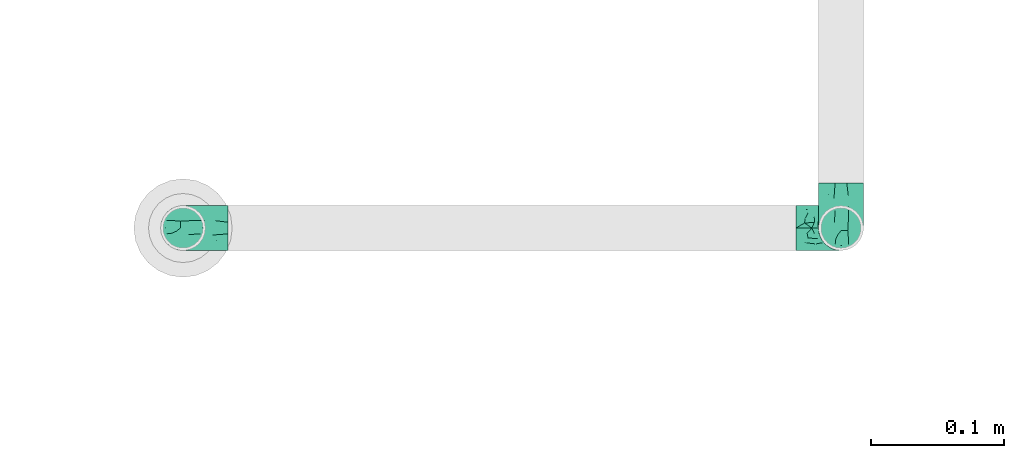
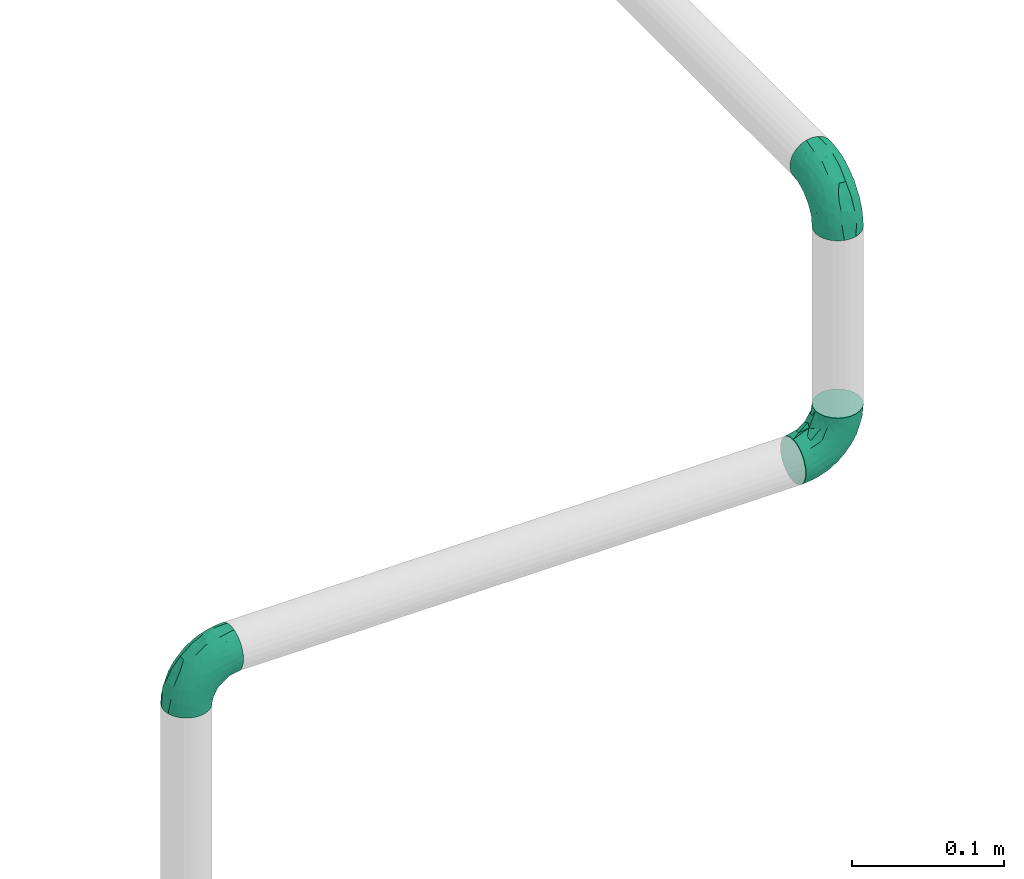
# One storey, part 74 of 95: 3 flow fittings.
"""IFC2X3 building model written with IfcOpenShell, lengths in millimetres."""

from ifc_helpers import new_model, entity, si_unit, converted_unit, derived_unit, direction, frame, origin_with_axes, place, context, subcontext, project, spatial, open_shell, surface_model, source, transform, mapped, type_object, element, save


model = new_model("IFC2X3")

# Units and contexts
model_context = context("Model", 3, precision=0.01, world=frame((0.0, 4.29681676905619e-09, 0.0)), true_north=direction((4.01073788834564e-13, 1.0)))
plan_context = context("Plan", 3, precision=0.01, world=frame((0.0, 4.29681676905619e-09, 0.0)), true_north=direction((4.01073788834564e-13, 1.0)))
body_context = subcontext(model_context, "Body", "Model", "MODEL_VIEW")
ifc_project = project(units=[converted_unit("PLANEANGLEUNIT", "DEGREE", entity("IfcPositiveLengthMeasure", 0.0174532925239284), si_unit("PLANEANGLEUNIT", "RADIAN"), dimensions=[0, 0, 0, 0, 0, 0, 0]), si_unit("AREAUNIT", "SQUARE_METRE"), si_unit("LENGTHUNIT", "METRE", prefix="MILLI"), si_unit("MASSUNIT", "GRAM", prefix="KILO"), si_unit("POWERUNIT", "WATT"), si_unit("PRESSUREUNIT", "PASCAL"), si_unit("FORCEUNIT", "NEWTON", prefix="KILO"), si_unit("ELECTRICVOLTAGEUNIT", "VOLT"), si_unit("ELECTRICCURRENTUNIT", "AMPERE"), si_unit("THERMODYNAMICTEMPERATUREUNIT", "DEGREE_CELSIUS"), si_unit("TIMEUNIT", "SECOND"), si_unit("VOLUMEUNIT", "CUBIC_METRE"), derived_unit("LINEARVELOCITYUNIT", [(si_unit("LENGTHUNIT", "METRE"), 1), (si_unit("TIMEUNIT", "SECOND"), -1)]), derived_unit("VOLUMETRICFLOWRATEUNIT", [(si_unit("VOLUMEUNIT", "CUBIC_METRE"), 1), (si_unit("TIMEUNIT", "SECOND"), -1)]), derived_unit("THERMALTRANSMITTANCEUNIT", [(si_unit("POWERUNIT", "WATT"), 1), (si_unit("THERMODYNAMICTEMPERATUREUNIT", "KELVIN"), -1), (si_unit("AREAUNIT", "SQUARE_METRE"), -1)]), derived_unit("SOUNDPRESSUREUNIT", [(si_unit("PRESSUREUNIT", "PASCAL"), 1)])], contexts=[model_context, plan_context])

# Site, building, storey
site_placement = place(None, frame((0.0, -4.29681676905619e-09, 0.0), z_axis=(0.0, 0.0, 1.0), x_axis=(1.0, 0.0, 0.0)))
site = spatial("IfcSite", under=ifc_project, at=site_placement, CompositionType="ELEMENT")
building_placement = place(site_placement, frame((0.0, 4.29681676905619e-09, 0.0), z_axis=(0.0, 0.0, 1.0), x_axis=(1.0, 0.0, 0.0)))
building = spatial("IfcBuilding", under=site, at=building_placement, Name="mc-building", CompositionType="ELEMENT")
storey_placement = place(building_placement, frame((0.0, 0.0, 210900.0), z_axis=(0.0, 0.0, 1.0), x_axis=(1.0, 0.0, 0.0)))
storey = spatial("IfcBuildingStorey", under=building, at=storey_placement, Name="Nivå F", CompositionType="ELEMENT", Elevation=210900.0)

# Flow fittings
pipe_fitting_type = type_object("IfcPipeFittingType", Name="magi_pipe_fe_elbow_short_001", PredefinedType="BEND")
shared_shape_1 = source(origin_with_axes(), body_context, "Body", "SurfaceModel", [
    surface_model("IfcShellBasedSurfaceModel", [(-33.8, 8.45, -14.63583), (-33.8, 4.37404, -16.32415), (-33.8, 11.9501, -11.9501), (-33.8, -11.9501, -11.9501), (-33.8, -14.63583, -8.45), (-33.8, -8.45, -14.63583), (-33.8, 0.0, -16.9), (-33.8, -4.37404, -16.32415), (-33.8, -4.37404, 16.32415), (-33.8, 0.0, 16.9), (-33.8, -8.45, 14.63583), (-33.8, 16.32415, -4.37404), (-33.8, 14.63583, -8.45), (-33.8, -16.32415, -4.37404), (-33.8, -16.9, 0.0), (-33.8, -16.32415, 4.37404), (-33.8, 11.9501, 11.9501), (-33.8, 14.63583, 8.45), (-33.8, 16.32415, 4.37404), (-33.8, 4.37404, 16.32415), (-33.8, 8.45, 14.63583), (-33.8, -14.63583, 8.45), (-33.8, -11.9501, 11.9501), (-33.8, 16.9, 0.0), (-11.9501, 33.8, -11.9501), (0.0, 33.8, -16.9), (-4.37404, 33.8, -16.32415), (-8.45, 33.8, -14.63583), (-14.63583, 33.8, -8.45), (-16.32415, 33.8, -4.37404), (14.63583, 33.8, -8.45), (8.45, 33.8, 14.63583), (16.32415, 33.8, -4.37404), (8.45, 33.8, -14.63583), (11.9501, 33.8, -11.9501), (4.37404, 33.8, -16.32415), (16.32415, 33.8, 4.37404), (16.9, 33.8, 0.0), (-11.9501, 33.8, 11.9501), (-16.32415, 33.8, 4.37404), (-14.63583, 33.8, 8.45), (-8.45, 33.8, 14.63583), (-4.37404, 33.8, 16.32415), (11.9501, 33.8, 11.9501), (14.63583, 33.8, 8.45), (0.0, 33.8, 16.9), (4.37404, 33.8, 16.32415), (-16.9, 33.8, 0.0), (-24.79389, -13.12945, 9.48721), (-22.19287, -9.75018, 12.59315), (-24.09897, -14.97035, 0.0), (-14.93934, -10.76256, 8.5297), (-22.46095, -14.75051, 5.27077), (14.75051, 22.46094, 5.27077), (11.9251, 13.23888, 4.33236), (13.04069, 14.39795, 0.0), (7.71387, 13.68847, 11.55891), (9.75018, 22.19287, 12.59315), (4.10169, 13.0571, 14.04018), (-24.84007, -6.39063, 15.2048), (-25.81779, -2.23879, 16.61097), (-23.66549, 2.59054, 16.87119), (-26.50418, 14.06512, 11.08152), (-24.21253, 17.66365, 7.72657), (-29.58514, 15.86957, 7.00283), (-6.17382, -7.5455, 0.0), (-13.23888, -11.9251, 4.33236), (-14.39795, -13.04069, 0.0), (-17.81434, 18.87373, 11.97104), (-6.30846, 29.15138, 15.82987), (-2.31622, 25.28002, 16.85849), (-29.23923, 10.23435, 13.77053), (-1.45439, -2.85688, 7.61475), (-0.28326, 0.34872, 10.09509), (-5.74484, -4.04709, 10.4122), (-4.41137, 11.31918, 16.59407), (-8.39727, 3.10034, 15.7812), (-1.72649, 9.1306, 15.53089), (-17.39909, 24.75344, 7.64977), (-26.19233, 20.0512, 0.0), (-28.14518, 17.29657, 4.25857), (-26.05147, 6.6281, 15.96447), (-5.87354, 16.61944, 16.86968), (-12.51807, 12.51807, 16.48937), (-10.06312, 7.38516, 16.81295), (-3.01882, 3.01882, 13.81718), (-13.0571, -4.10169, 14.04018), (-16.82553, -0.15166, 16.38038), (10.76256, 14.93934, 8.5297), (13.12945, 24.79389, 9.48721), (6.39063, 24.84007, 15.2048), (2.23879, 25.81779, 16.61097), (-13.68847, -7.71387, 11.55891), (14.97035, 24.09897, 0.0), (-7.30894, 22.89991, 16.09489), (-10.67958, 26.17414, 14.008), (-12.78295, 18.26924, 15.06066), (-13.88562, 22.45231, 12.93244), (-18.04944, 15.16501, 14.04434), (-23.11658, 20.08178, 4.02986), (-21.84989, 21.84989, 0.0), (-18.55817, 25.48277, 3.93065), (-13.95142, 26.94732, 11.03289), (-18.57098, 7.23906, 16.59756), (-16.58335, 4.14122, 16.89279), (-17.96666, 11.46709, 15.63151), (-9.84453, 17.54304, 16.18938), (0.15166, 16.82553, 16.38038), (-23.27207, 11.47201, 14.23154), (3.84842, 5.86994, 10.70473), (-8.0212, -7.54413, 7.93275), (1.00345, -2.19508, 4.57414), (5.13203, 3.01004, 5.90201), (5.24161, 1.7543, 2.53265), (8.70457, 7.04947, 3.99182), (-20.0512, 26.19233, 0.0), (8.4852, 8.76699, 7.09296), (-4.55488, -6.72064, 4.90681), (2.05031, -2.05031, 0.0), (7.5455, 6.17382, 0.0), (-26.75399, 2.1369, -16.845), (-14.61995, 24.73803, -11.27736), (-28.45274, -13.45335, -9.81895), (-26.00469, 6.63555, -15.96645), (-23.06726, 20.04573, -4.26202), (-13.80647, -4.26506, -14.17873), (-14.67501, -0.21081, -16.07388), (-6.7902, -0.2828, -13.8478), (-24.53586, 11.08096, -14.13417), (-26.72048, 14.00837, -11.05776), (10.0967, 24.44989, -12.75976), (5.83237, 21.40218, -15.03047), (6.66249, 28.54238, -15.38093), (-20.38182, 15.48705, -12.74596), (12.53268, 21.23441, -9.15363), (12.54494, 15.67504, -5.54878), (9.7522, 12.89279, -8.66343), (-15.65186, 19.64213, -13.01327), (-12.03528, 20.66498, -14.67665), (-15.61907, 15.61906, -14.83879), (-25.56551, -15.26206, 0.0), (-24.65452, -15.12934, -5.50955), (13.45335, 28.45274, -9.81895), (15.12934, 24.65452, -5.50955), (-7.35442, -8.31014, -5.65563), (-15.67504, -12.54494, -5.54878), (-24.44989, -10.0967, -12.75976), (0.16522, 0.41303, -9.71728), (-5.70658, -5.33066, -8.89288), (-5.13869, -2.37198, -11.53565), (-21.23441, -12.53268, -9.15363), (0.71146, 7.93863, -14.09382), (0.21081, 14.67501, -16.07388), (3.49291, 14.42772, -14.76381), (-24.89911, -2.13088, -16.591), (-28.54238, -6.66249, -15.38093), (-18.44386, -7.71663, -13.26957), (2.13088, 24.89911, -16.591), (-28.64342, 17.44413, -2.89318), (1.70017, -1.28722, -5.09504), (-16.57067, 26.81947, -7.36596), (-17.69055, 27.4263, -3.76405), (-12.89279, -9.7522, -8.66343), (-5.96611, 5.96611, -15.95814), (-20.53709, 20.09345, -8.28985), (-2.1369, 26.75399, -16.845), (-6.89872, 24.58781, -16.02578), (-10.60739, 26.53157, -13.98044), (-21.40218, -5.83237, -15.03047), (2.93192, 5.89627, -11.55917), (6.89393, 12.61842, -11.82233), (5.58056, 5.95325, -8.79455), (-3.99512, 18.61798, -16.89635), (8.31014, 7.35442, -5.65563), (-9.1383, 9.86148, -16.89041), (-9.99983, 16.02119, -16.39699), (-16.68576, 9.78031, -16.34199), (-27.01915, 16.61158, -7.12979), (15.26206, 25.56551, 0.0), (-18.61798, 3.99512, -16.89635), (-19.37495, 27.82495, 0.0), (-12.61842, -6.89393, -11.82233), (-18.84705, 19.14018, -10.96545)], [open_shell([[[0, 1, 2]], [[3, 4, 5]], [[6, 7, 5]], [[8, 9, 10]], [[1, 6, 2]], [[11, 12, 2]], [[4, 2, 6]], [[2, 13, 10]], [[5, 4, 6]], [[2, 4, 13]], [[14, 15, 13]], [[11, 2, 16]], [[11, 17, 18]], [[11, 16, 17]], [[19, 20, 16]], [[16, 2, 10]], [[19, 16, 10]], [[21, 22, 15]], [[22, 13, 15]], [[22, 10, 13]], [[10, 9, 19]], [[11, 18, 23]], [[24, 25, 26]], [[24, 26, 27]], [[24, 28, 29]], [[25, 24, 30]], [[31, 32, 24]], [[33, 30, 34]], [[33, 35, 25]], [[25, 30, 33]], [[32, 30, 24]], [[32, 36, 37]], [[38, 24, 29]], [[39, 40, 29]], [[40, 38, 29]], [[38, 41, 42]], [[38, 31, 24]], [[31, 38, 42]], [[36, 43, 44]], [[36, 32, 43]], [[31, 45, 46]], [[32, 31, 43]], [[42, 45, 31]], [[39, 29, 47]], [[22, 48, 49]], [[15, 14, 50]], [[51, 48, 52]], [[53, 54, 55]], [[48, 22, 21]], [[15, 52, 21]], [[56, 57, 58]], [[49, 10, 22]], [[49, 59, 10]], [[9, 60, 61]], [[62, 63, 64]], [[65, 66, 67]], [[57, 43, 31]], [[62, 68, 63]], [[42, 69, 70]], [[20, 71, 16]], [[8, 60, 9]], [[72, 73, 74]], [[75, 76, 77]], [[16, 62, 17]], [[40, 39, 78]], [[79, 23, 80]], [[64, 18, 17]], [[9, 61, 19]], [[19, 81, 20]], [[82, 83, 84]], [[74, 85, 86]], [[59, 86, 87]], [[88, 89, 57]], [[90, 31, 46]], [[44, 53, 36]], [[46, 45, 91]], [[54, 53, 88]], [[44, 89, 53]], [[92, 86, 49]], [[89, 44, 43]], [[10, 59, 8]], [[53, 55, 93]], [[93, 36, 53]], [[66, 52, 67]], [[94, 82, 70]], [[95, 96, 94]], [[97, 98, 96]], [[79, 99, 100]], [[41, 38, 95]], [[101, 100, 99]], [[68, 78, 63]], [[42, 41, 69]], [[23, 18, 80]], [[95, 94, 69]], [[78, 101, 99]], [[38, 102, 95]], [[70, 45, 42]], [[97, 95, 102]], [[15, 50, 52]], [[90, 57, 31]], [[57, 90, 58]], [[81, 19, 61]], [[103, 104, 84]], [[105, 81, 103]], [[38, 40, 102]], [[106, 96, 83]], [[94, 106, 82]], [[91, 70, 107]], [[71, 62, 16]], [[62, 108, 98]], [[86, 59, 49]], [[67, 52, 50]], [[60, 59, 87]], [[92, 49, 51]], [[86, 85, 76]], [[91, 90, 46]], [[37, 36, 93]], [[107, 77, 58]], [[107, 58, 90]], [[58, 85, 109]], [[110, 74, 92]], [[72, 74, 110]], [[66, 51, 52]], [[72, 111, 112]], [[113, 114, 112]], [[56, 88, 57]], [[52, 48, 21]], [[49, 48, 51]], [[57, 89, 43]], [[53, 89, 88]], [[103, 81, 61]], [[71, 81, 108]], [[18, 64, 80]], [[63, 78, 99]], [[47, 115, 101]], [[101, 115, 100]], [[40, 78, 102]], [[68, 102, 78]], [[97, 96, 95]], [[105, 98, 108]], [[103, 84, 83]], [[107, 70, 82]], [[76, 84, 87]], [[82, 84, 75]], [[70, 91, 45]], [[90, 91, 107]], [[59, 60, 8]], [[61, 60, 87]], [[73, 85, 74]], [[109, 112, 116]], [[103, 61, 104]], [[105, 103, 83]], [[96, 105, 83]], [[81, 105, 108]], [[96, 98, 105]], [[62, 98, 68]], [[61, 87, 104]], [[87, 84, 104]], [[86, 76, 87]], [[77, 76, 85]], [[58, 77, 85]], [[75, 77, 107]], [[82, 75, 107]], [[76, 75, 84]], [[81, 71, 20]], [[62, 71, 108]], [[95, 69, 41]], [[70, 69, 94]], [[62, 64, 17]], [[80, 63, 99]], [[63, 80, 64]], [[80, 99, 79]], [[66, 65, 117]], [[110, 66, 117]], [[112, 114, 116]], [[118, 117, 65]], [[110, 92, 51]], [[112, 111, 113]], [[119, 55, 54]], [[74, 86, 92]], [[58, 109, 56]], [[116, 56, 109]], [[66, 110, 51]], [[72, 110, 117]], [[111, 72, 117]], [[73, 112, 109]], [[117, 118, 111]], [[113, 111, 118]], [[118, 119, 113]], [[114, 119, 54]], [[119, 114, 113]], [[116, 54, 88]], [[54, 116, 114]], [[116, 88, 56]], [[112, 73, 72]], [[85, 73, 109]], [[78, 39, 101]], [[47, 101, 39]], [[102, 68, 97]], [[97, 68, 98]], [[82, 106, 83]], [[94, 96, 106]], [[1, 120, 6]], [[28, 24, 121]], [[3, 122, 4]], [[0, 123, 1]], [[100, 124, 79]], [[125, 126, 127]], [[128, 2, 129]], [[130, 131, 132]], [[128, 129, 133]], [[134, 135, 136]], [[137, 138, 139]], [[128, 0, 2]], [[67, 140, 141]], [[134, 142, 143]], [[141, 13, 4]], [[144, 65, 145]], [[146, 3, 5]], [[147, 148, 149]], [[145, 141, 150]], [[151, 152, 153]], [[154, 7, 6]], [[5, 155, 146]], [[150, 146, 156]], [[155, 5, 7]], [[143, 135, 134]], [[35, 157, 25]], [[23, 79, 158]], [[148, 159, 144]], [[160, 161, 29]], [[145, 162, 144]], [[163, 152, 151]], [[29, 28, 160]], [[121, 164, 160]], [[33, 34, 130]], [[25, 165, 26]], [[26, 165, 166]], [[142, 34, 30]], [[24, 27, 167]], [[124, 161, 164]], [[157, 35, 132]], [[155, 154, 168]], [[123, 0, 128]], [[169, 170, 171]], [[172, 157, 152]], [[26, 166, 27]], [[132, 35, 33]], [[142, 130, 34]], [[168, 154, 126]], [[136, 135, 173]], [[133, 137, 139]], [[2, 12, 129]], [[170, 131, 130]], [[30, 32, 143]], [[172, 174, 175]], [[176, 123, 128]], [[158, 177, 11]], [[135, 55, 119]], [[167, 27, 166]], [[175, 166, 172]], [[137, 167, 138]], [[122, 141, 4]], [[140, 14, 13]], [[32, 37, 178]], [[170, 130, 134]], [[152, 157, 131]], [[165, 157, 172]], [[153, 170, 151]], [[152, 163, 174]], [[168, 125, 156]], [[122, 146, 150]], [[120, 154, 6]], [[179, 174, 126]], [[179, 126, 154]], [[126, 163, 127]], [[162, 145, 150]], [[140, 13, 141]], [[32, 178, 143]], [[55, 143, 178]], [[177, 129, 12]], [[128, 133, 139]], [[176, 128, 139]], [[120, 123, 179]], [[121, 160, 28]], [[161, 100, 180]], [[166, 175, 138]], [[121, 24, 167]], [[161, 47, 29]], [[79, 124, 158]], [[124, 164, 177]], [[161, 124, 100]], [[136, 171, 170]], [[127, 163, 151]], [[147, 171, 159]], [[148, 144, 162]], [[127, 151, 169]], [[127, 181, 125]], [[129, 177, 164]], [[12, 11, 177]], [[159, 65, 144]], [[67, 141, 145]], [[143, 55, 135]], [[135, 119, 173]], [[123, 120, 1]], [[154, 120, 179]], [[157, 165, 25]], [[166, 165, 172]], [[172, 152, 174]], [[176, 139, 175]], [[126, 174, 163]], [[176, 174, 179]], [[174, 176, 175]], [[123, 176, 179]], [[150, 181, 162]], [[127, 149, 181]], [[181, 148, 162]], [[159, 148, 147]], [[171, 136, 173]], [[170, 134, 136]], [[159, 171, 173]], [[171, 147, 169]], [[169, 147, 149]], [[151, 170, 169]], [[164, 182, 129]], [[182, 121, 137]], [[181, 149, 148]], [[169, 149, 127]], [[182, 137, 133]], [[167, 137, 121]], [[166, 138, 167]], [[175, 139, 138]], [[129, 182, 133]], [[121, 182, 164]], [[161, 160, 164]], [[47, 161, 180]], [[177, 158, 124]], [[23, 158, 11]], [[130, 132, 33]], [[157, 132, 131]], [[143, 142, 30]], [[130, 142, 134]], [[154, 155, 7]], [[146, 155, 168]], [[146, 122, 3]], [[141, 122, 150]], [[152, 131, 153]], [[159, 119, 118]], [[67, 145, 65]], [[170, 153, 131]], [[119, 159, 173]], [[159, 118, 65]], [[156, 125, 181]], [[126, 125, 168]], [[150, 156, 181]], [[168, 156, 146]]])]),
])
flow_fitting_placement = place(storey_placement, frame((526893.09321, 458598.02191, 4100.0), z_axis=(0.0, -1.0, 0.0), x_axis=(-1.0, 0.0, 0.0)))
element("IfcFlowFitting", 1, at=flow_fitting_placement, inside=storey, type_object=pipe_fitting_type, Name="magi_pipe_fe_elbow_short_001", context=body_context, shape_type="MappedRepresentation", body=[
    mapped(shared_shape_1, transform((0.0, 0.0, 0.0), scale=1.0)),
])
shared_shape_2 = source(origin_with_axes(), body_context, "Body", "SurfaceModel", [
    surface_model("IfcShellBasedSurfaceModel", [(-33.8, 16.32415, -4.37404), (-33.8, 16.32415, 4.37404), (-33.8, 16.9, 0.0), (-33.8, -11.9501, -11.9501), (-33.8, 0.0, -16.9), (-33.8, -4.37404, -16.32415), (-33.8, -8.45, -14.63583), (-33.8, -14.63583, -8.45), (-33.8, -16.32415, -4.37404), (-33.8, 14.63583, -8.45), (-33.8, 8.45, 14.63583), (-33.8, 8.45, -14.63583), (-33.8, 11.9501, -11.9501), (-33.8, 4.37404, -16.32415), (-33.8, -11.9501, 11.9501), (-33.8, -16.32415, 4.37404), (-33.8, -14.63583, 8.45), (-33.8, -8.45, 14.63583), (-33.8, -4.37404, 16.32415), (-33.8, 11.9501, 11.9501), (-33.8, 14.63583, 8.45), (-33.8, 0.0, 16.9), (-33.8, 4.37404, 16.32415), (-33.8, -16.9, 0.0), (-4.37404, -33.8, -16.32415), (0.0, -33.8, -16.9), (-11.9501, -33.8, -11.9501), (-8.45, -33.8, -14.63583), (-16.32415, -33.8, -4.37404), (-14.63583, -33.8, -8.45), (14.63583, -33.8, -8.45), (16.32415, -33.8, -4.37404), (8.45, -33.8, 14.63583), (11.9501, -33.8, -11.9501), (8.45, -33.8, -14.63583), (4.37404, -33.8, -16.32415), (16.9, -33.8, 0.0), (16.32415, -33.8, 4.37404), (-11.9501, -33.8, 11.9501), (-14.63583, -33.8, 8.45), (-16.32415, -33.8, 4.37404), (-4.37404, -33.8, 16.32415), (-8.45, -33.8, 14.63583), (14.63583, -33.8, 8.45), (11.9501, -33.8, 11.9501), (4.37404, -33.8, 16.32415), (0.0, -33.8, 16.9), (-16.9, -33.8, 0.0), (-22.19287, 9.75018, 12.59315), (-24.79389, 13.12945, 9.48721), (-24.09897, 14.97035, 0.0), (-22.46095, 14.75051, 5.27077), (-14.93934, 10.76256, 8.5297), (13.04069, -14.39795, 0.0), (11.9251, -13.23888, 4.33236), (14.75051, -22.46094, 5.27077), (4.10169, -13.0571, 14.04018), (9.75018, -22.19287, 12.59315), (7.71387, -13.68847, 11.55891), (-24.84007, 6.39063, 15.2048), (-23.66549, -2.59054, 16.87119), (-25.81779, 2.23879, 16.61097), (-29.58514, -15.86957, 7.00283), (-24.21253, -17.66365, 7.72657), (-26.50418, -14.06512, 11.08152), (-14.39795, 13.04069, 0.0), (-13.23888, 11.9251, 4.33236), (-6.17382, 7.5455, 0.0), (-17.81434, -18.87373, 11.97104), (-2.31622, -25.28002, 16.85849), (-6.30846, -29.15138, 15.82987), (-29.23923, -10.23435, 13.77053), (-5.74484, 4.04709, 10.4122), (-0.28326, -0.34872, 10.09509), (-1.45439, 2.85688, 7.61475), (-1.72649, -9.1306, 15.53089), (-8.39727, -3.10034, 15.7812), (-4.41137, -11.31918, 16.59407), (-17.39909, -24.75344, 7.64977), (-28.14518, -17.29657, 4.25857), (-26.19233, -20.0512, 0.0), (-26.05147, -6.6281, 15.96447), (-10.06312, -7.38516, 16.81295), (-12.51807, -12.51807, 16.48937), (-5.87354, -16.61944, 16.86968), (-13.0571, 4.10169, 14.04018), (-3.01882, -3.01882, 13.81718), (-16.82553, 0.15166, 16.38038), (13.12945, -24.79389, 9.48721), (10.76256, -14.93934, 8.5297), (6.39063, -24.84007, 15.2048), (2.23879, -25.81779, 16.61097), (-13.68847, 7.71387, 11.55891), (14.97035, -24.09897, 0.0), (-7.30894, -22.89991, 16.09489), (-12.78295, -18.26924, 15.06066), (-10.67958, -26.17414, 14.008), (-18.04944, -15.16501, 14.04434), (-13.88562, -22.45231, 12.93244), (-21.84989, -21.84989, 0.0), (-23.11658, -20.08178, 4.02986), (-18.55817, -25.48277, 3.93065), (-13.95142, -26.94732, 11.03289), (-16.58335, -4.14122, 16.89279), (-18.57098, -7.23906, 16.59756), (-17.96666, -11.46709, 15.63151), (-9.84453, -17.54304, 16.18938), (0.15166, -16.82553, 16.38038), (-23.27207, -11.47201, 14.23154), (3.84842, -5.86994, 10.70473), (-8.0212, 7.54413, 7.93275), (5.13203, -3.01004, 5.90201), (1.00345, 2.19508, 4.57414), (8.70457, -7.04947, 3.99182), (5.24161, -1.7543, 2.53265), (-20.0512, -26.19233, 0.0), (8.4852, -8.76699, 7.09296), (-4.55488, 6.72064, 4.90681), (2.05031, 2.05031, 0.0), (7.5455, -6.17382, 0.0), (-26.75399, -2.1369, -16.845), (-14.61995, -24.73803, -11.27736), (-28.45274, 13.45335, -9.81895), (-26.00469, -6.63555, -15.96645), (-23.06726, -20.04573, -4.26202), (-6.7902, 0.2828, -13.8478), (-14.67501, 0.21081, -16.07388), (-13.80647, 4.26506, -14.17873), (-26.72048, -14.00837, -11.05776), (-24.53586, -11.08096, -14.13417), (6.66249, -28.54238, -15.38093), (5.83237, -21.40218, -15.03047), (10.0967, -24.44989, -12.75976), (-20.38182, -15.48705, -12.74596), (9.7522, -12.89279, -8.66343), (12.54494, -15.67504, -5.54878), (12.53268, -21.23441, -9.15363), (-15.61907, -15.61906, -14.83879), (-12.03528, -20.66498, -14.67665), (-15.65186, -19.64213, -13.01327), (-24.65452, 15.12934, -5.50955), (-25.56551, 15.26206, 0.0), (15.12934, -24.65452, -5.50955), (13.45335, -28.45274, -9.81895), (-15.67504, 12.54494, -5.54878), (-7.35442, 8.31014, -5.65563), (-24.44989, 10.0967, -12.75976), (-5.13869, 2.37198, -11.53565), (-5.70658, 5.33066, -8.89288), (0.16522, -0.41303, -9.71728), (-21.23441, 12.53268, -9.15363), (3.49291, -14.42772, -14.76381), (0.21081, -14.67501, -16.07388), (0.71146, -7.93863, -14.09382), (-24.89911, 2.13088, -16.591), (-28.54238, 6.66249, -15.38093), (-18.44386, 7.71663, -13.26957), (2.13088, -24.89911, -16.591), (-28.64342, -17.44413, -2.89318), (1.70017, 1.28722, -5.09504), (-17.69055, -27.4263, -3.76405), (-16.57067, -26.81947, -7.36596), (-12.89279, 9.7522, -8.66343), (-5.96611, -5.96611, -15.95814), (-20.53709, -20.09345, -8.28985), (-2.1369, -26.75399, -16.845), (-6.89872, -24.58781, -16.02578), (-10.60739, -26.53157, -13.98044), (-21.40218, 5.83237, -15.03047), (5.58056, -5.95325, -8.79455), (6.89393, -12.61842, -11.82233), (2.93192, -5.89627, -11.55917), (-3.99512, -18.61798, -16.89635), (8.31014, -7.35442, -5.65563), (-9.99983, -16.02119, -16.39699), (-9.1383, -9.86148, -16.89041), (-16.68576, -9.78031, -16.34199), (-27.01915, -16.61158, -7.12979), (15.26206, -25.56551, 0.0), (-18.61798, -3.99512, -16.89635), (-19.37495, -27.82495, 0.0), (-12.61842, 6.89393, -11.82233), (-18.84705, -19.14018, -10.96545)], [open_shell([[[0, 1, 2]], [[3, 4, 5]], [[3, 5, 6]], [[3, 7, 8]], [[4, 3, 9]], [[10, 0, 3]], [[11, 9, 12]], [[11, 13, 4]], [[4, 9, 11]], [[0, 9, 3]], [[14, 3, 8]], [[15, 16, 8]], [[16, 14, 8]], [[14, 17, 18]], [[14, 10, 3]], [[10, 14, 18]], [[1, 19, 20]], [[1, 0, 19]], [[10, 21, 22]], [[0, 10, 19]], [[18, 21, 10]], [[15, 8, 23]], [[24, 25, 26]], [[27, 24, 26]], [[28, 29, 26]], [[30, 26, 25]], [[26, 31, 32]], [[33, 30, 34]], [[25, 35, 34]], [[34, 30, 25]], [[26, 30, 31]], [[36, 37, 31]], [[28, 26, 38]], [[28, 39, 40]], [[28, 38, 39]], [[41, 42, 38]], [[38, 26, 32]], [[41, 38, 32]], [[43, 44, 37]], [[44, 31, 37]], [[45, 46, 32]], [[44, 32, 31]], [[32, 46, 41]], [[28, 40, 47]], [[48, 49, 19]], [[50, 2, 1]], [[51, 49, 52]], [[53, 54, 55]], [[20, 19, 49]], [[20, 51, 1]], [[56, 57, 58]], [[19, 10, 48]], [[10, 59, 48]], [[60, 61, 21]], [[62, 63, 64]], [[65, 66, 67]], [[32, 44, 57]], [[63, 68, 64]], [[69, 70, 41]], [[14, 71, 17]], [[21, 61, 22]], [[72, 73, 74]], [[75, 76, 77]], [[16, 64, 14]], [[78, 40, 39]], [[79, 23, 80]], [[16, 15, 62]], [[18, 60, 21]], [[17, 81, 18]], [[82, 83, 84]], [[85, 86, 72]], [[87, 85, 59]], [[57, 88, 89]], [[45, 32, 90]], [[37, 55, 43]], [[91, 46, 45]], [[89, 55, 54]], [[55, 88, 43]], [[48, 85, 92]], [[44, 43, 88]], [[22, 59, 10]], [[93, 53, 55]], [[55, 37, 93]], [[65, 51, 66]], [[69, 84, 94]], [[94, 95, 96]], [[95, 97, 98]], [[99, 100, 80]], [[96, 38, 42]], [[100, 99, 101]], [[63, 78, 68]], [[70, 42, 41]], [[79, 15, 23]], [[70, 94, 96]], [[100, 101, 78]], [[96, 102, 38]], [[41, 46, 69]], [[102, 96, 98]], [[51, 50, 1]], [[32, 57, 90]], [[56, 90, 57]], [[60, 18, 81]], [[82, 103, 104]], [[104, 81, 105]], [[102, 39, 38]], [[83, 95, 106]], [[84, 106, 94]], [[107, 69, 91]], [[14, 64, 71]], [[97, 108, 64]], [[48, 59, 85]], [[50, 51, 65]], [[87, 59, 61]], [[52, 48, 92]], [[76, 86, 85]], [[45, 90, 91]], [[93, 37, 36]], [[56, 75, 107]], [[90, 56, 107]], [[109, 86, 56]], [[92, 72, 110]], [[110, 72, 74]], [[51, 52, 66]], [[111, 112, 74]], [[111, 113, 114]], [[57, 89, 58]], [[20, 49, 51]], [[52, 49, 48]], [[44, 88, 57]], [[89, 88, 55]], [[60, 81, 104]], [[108, 81, 71]], [[79, 62, 15]], [[100, 78, 63]], [[101, 115, 47]], [[99, 115, 101]], [[102, 78, 39]], [[78, 102, 68]], [[96, 95, 98]], [[108, 97, 105]], [[83, 82, 104]], [[84, 69, 107]], [[87, 82, 76]], [[77, 82, 84]], [[46, 91, 69]], [[107, 91, 90]], [[22, 61, 59]], [[87, 61, 60]], [[72, 86, 73]], [[116, 111, 109]], [[103, 60, 104]], [[83, 104, 105]], [[83, 105, 95]], [[108, 105, 81]], [[105, 97, 95]], [[68, 97, 64]], [[103, 87, 60]], [[103, 82, 87]], [[87, 76, 85]], [[86, 76, 75]], [[86, 75, 56]], [[107, 75, 77]], [[107, 77, 84]], [[82, 77, 76]], [[17, 71, 81]], [[108, 71, 64]], [[42, 70, 96]], [[94, 70, 69]], [[16, 62, 64]], [[100, 63, 79]], [[62, 79, 63]], [[80, 100, 79]], [[117, 67, 66]], [[117, 66, 110]], [[116, 113, 111]], [[67, 117, 118]], [[52, 92, 110]], [[114, 112, 111]], [[54, 53, 119]], [[92, 85, 72]], [[58, 109, 56]], [[109, 58, 116]], [[52, 110, 66]], [[117, 110, 74]], [[117, 74, 112]], [[109, 111, 73]], [[112, 118, 117]], [[118, 112, 114]], [[114, 119, 118]], [[54, 119, 113]], [[114, 113, 119]], [[89, 54, 116]], [[113, 116, 54]], [[58, 89, 116]], [[74, 73, 111]], [[109, 73, 86]], [[101, 40, 78]], [[40, 101, 47]], [[98, 68, 102]], [[97, 68, 98]], [[83, 106, 84]], [[106, 95, 94]], [[4, 120, 5]], [[121, 26, 29]], [[9, 122, 12]], [[5, 123, 6]], [[80, 124, 99]], [[125, 126, 127]], [[128, 3, 129]], [[130, 131, 132]], [[133, 128, 129]], [[134, 135, 136]], [[137, 138, 139]], [[3, 6, 129]], [[140, 141, 65]], [[142, 143, 136]], [[9, 0, 140]], [[144, 67, 145]], [[11, 12, 146]], [[147, 148, 149]], [[150, 140, 144]], [[151, 152, 153]], [[4, 13, 154]], [[146, 155, 11]], [[156, 146, 150]], [[13, 11, 155]], [[136, 135, 142]], [[25, 157, 35]], [[158, 80, 23]], [[145, 159, 148]], [[28, 160, 161]], [[145, 162, 144]], [[153, 152, 163]], [[161, 29, 28]], [[161, 164, 121]], [[132, 33, 34]], [[24, 165, 25]], [[166, 165, 24]], [[30, 33, 143]], [[167, 27, 26]], [[164, 160, 124]], [[130, 35, 157]], [[168, 154, 155]], [[129, 6, 123]], [[169, 170, 171]], [[152, 157, 172]], [[27, 166, 24]], [[34, 35, 130]], [[33, 132, 143]], [[126, 154, 168]], [[173, 135, 134]], [[137, 139, 133]], [[128, 7, 3]], [[132, 131, 170]], [[142, 31, 30]], [[174, 175, 172]], [[129, 123, 176]], [[8, 177, 158]], [[119, 53, 135]], [[166, 27, 167]], [[172, 166, 174]], [[138, 167, 139]], [[9, 140, 122]], [[0, 2, 141]], [[178, 36, 31]], [[136, 132, 170]], [[131, 157, 152]], [[172, 157, 165]], [[153, 170, 151]], [[175, 163, 152]], [[156, 127, 168]], [[150, 146, 122]], [[4, 154, 120]], [[126, 175, 179]], [[154, 126, 179]], [[125, 163, 126]], [[150, 144, 162]], [[140, 0, 141]], [[142, 178, 31]], [[178, 142, 53]], [[7, 128, 177]], [[137, 133, 129]], [[137, 129, 176]], [[179, 123, 120]], [[29, 161, 121]], [[180, 99, 160]], [[138, 174, 166]], [[167, 26, 121]], [[28, 47, 160]], [[158, 124, 80]], [[177, 164, 124]], [[99, 124, 160]], [[170, 169, 134]], [[153, 163, 125]], [[159, 169, 149]], [[162, 145, 148]], [[171, 153, 125]], [[127, 181, 125]], [[164, 177, 128]], [[177, 8, 7]], [[145, 67, 159]], [[144, 140, 65]], [[135, 53, 142]], [[173, 119, 135]], [[5, 120, 123]], [[179, 120, 154]], [[25, 165, 157]], [[172, 165, 166]], [[175, 152, 172]], [[174, 137, 176]], [[163, 175, 126]], [[179, 175, 176]], [[174, 176, 175]], [[179, 176, 123]], [[162, 181, 150]], [[181, 147, 125]], [[162, 148, 181]], [[149, 148, 159]], [[173, 134, 169]], [[134, 136, 170]], [[173, 169, 159]], [[171, 149, 169]], [[147, 149, 171]], [[171, 170, 153]], [[128, 182, 164]], [[139, 121, 182]], [[148, 147, 181]], [[125, 147, 171]], [[133, 139, 182]], [[121, 139, 167]], [[167, 138, 166]], [[138, 137, 174]], [[133, 182, 128]], [[164, 182, 121]], [[164, 161, 160]], [[180, 160, 47]], [[124, 158, 177]], [[8, 158, 23]], [[34, 130, 132]], [[131, 130, 157]], [[30, 143, 142]], [[136, 143, 132]], [[13, 155, 154]], [[168, 155, 146]], [[12, 122, 146]], [[150, 122, 140]], [[151, 131, 152]], [[118, 119, 159]], [[67, 144, 65]], [[131, 151, 170]], [[173, 159, 119]], [[67, 118, 159]], [[181, 127, 156]], [[168, 127, 126]], [[181, 156, 150]], [[146, 156, 168]]])]),
])
for number, where, z_axis, x_axis, name in (
    (2, (527387.9, 458598.02191, 4310.0), (-1.0, 0.0, 0.0), (0.0, -1.0, 0.0), "magi_pipe_fe_elbow_short_001"),
    (3, (527387.9, 458598.02191, 4100.0), (0.0, -1.0, 0.0), (0.0, 0.0, -1.0), "magi_pipe_fe_elbow_short_001"),
):
    element("IfcFlowFitting", number, at=place(storey_placement, frame(where, z_axis=z_axis, x_axis=x_axis)), inside=storey, type_object=pipe_fitting_type, Name=name, context=body_context, shape_type="MappedRepresentation", body=[
        mapped(shared_shape_2, transform((0.0, 0.0, 0.0), scale=1.0)),
    ])

save(model, "model.ifc")
